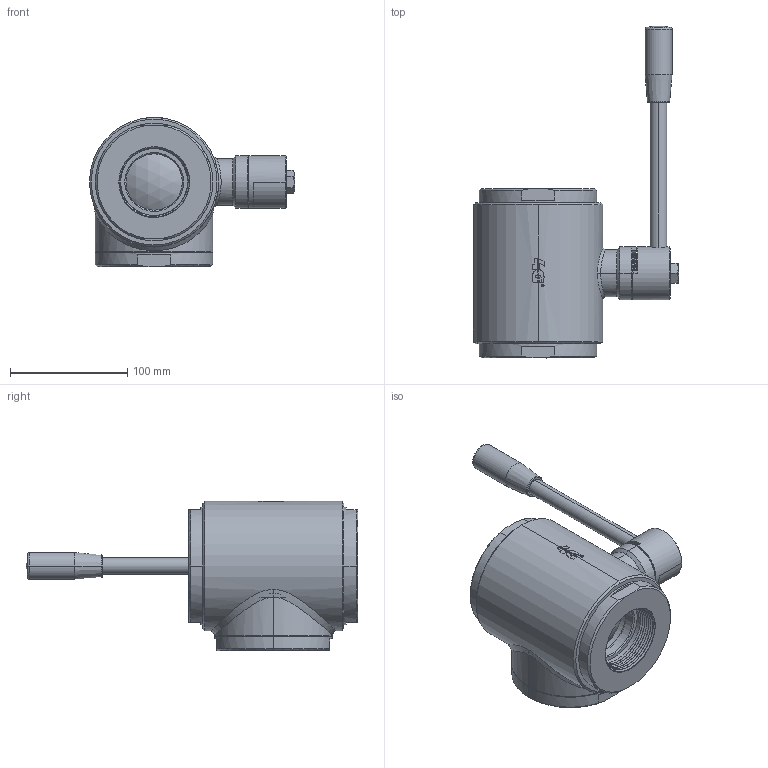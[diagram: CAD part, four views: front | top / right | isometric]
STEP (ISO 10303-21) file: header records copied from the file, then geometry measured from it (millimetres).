
FILE_DESCRIPTION((''),'2;1');
FILE_NAME('31010163810','2024-08-06T09:46:00',('alfio.taboni'),('CDM Tecnoconsulting'),'CREO PARAMETRIC BY PTC INC, 2023374','CREO PARAMETRIC BY PTC INC, 2023374','');
FILE_SCHEMA(('CONFIG_CONTROL_DESIGN','SHAPE_APPEARANCE_LAYERS_GROUPS'));
Products named in the file (1): 31010163810
Bounding box: 174.5 x 282.5 x 127 mm (x, y, z)
Volume: 1082800.1 mm3; surface area: 254042.7 mm2
Topology: 2 solids, 3 shells, 970 faces, 2654 edges, 1686 vertices
Faces by surface type: plane 331, cylinder 290, cone 127, bspline 127, extrusion 56, torus 34, sphere 5
Entity records: 93974 total; most frequent: CARTESIAN_POINT 62718, ORIENTED_EDGE 5268, DIRECTION 3948, PRESENTATION_STYLE_ASSIGNMENT 2697, STYLED_ITEM 2636, CURVE_STYLE 2634, EDGE_CURVE 2634, VERTEX_POINT 1686
